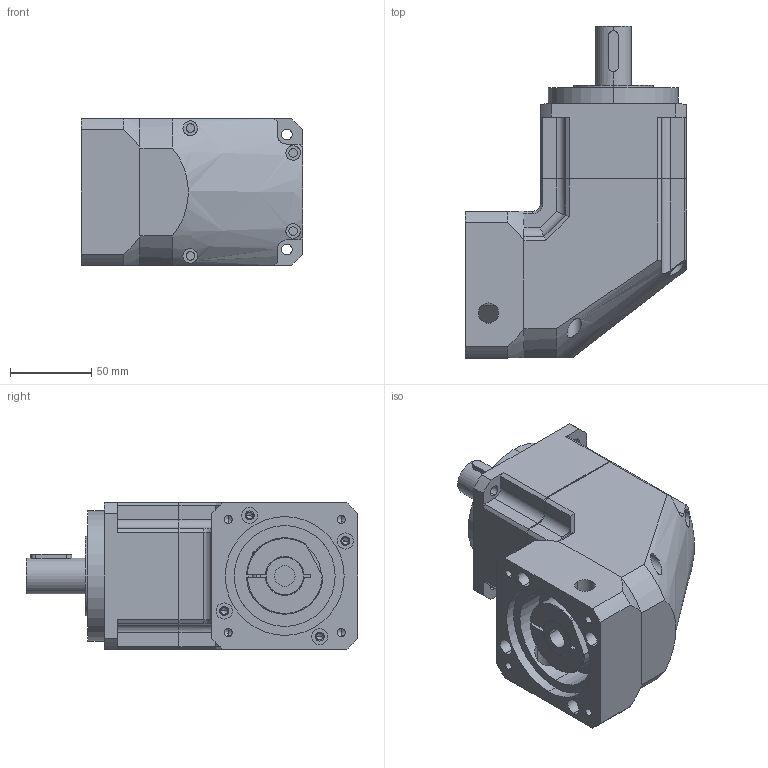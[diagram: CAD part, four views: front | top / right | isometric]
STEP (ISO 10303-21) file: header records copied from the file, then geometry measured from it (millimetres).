
FILE_DESCRIPTION (( 'STEP AP203' ), '1' );
FILE_NAME ('PDZJ090-L1-5-86-12.7x38.STEP', '2020-12-03T06:20:33', ( 'USER-' ), ( 'MS' ), 'SwSTEP 2.0', 'SolidWorks 2018', '' );
FILE_SCHEMA (( 'CONFIG_CONTROL_DESIGN' ));
Length unit declared in the file: millimetre
Products named in the file (7): PD90-SJH01_3.____^PDZJ090-L1(2)_PDZJ090-L1; ______ 6x6x25^PDZJ090-L1(2)_PDZJ090-L1; PD90-_________2^PDZJ090-L1(2)_PDZJ090-L1; PDR90-LJ_______ ____^PDZJ090-L1(2)_PDZJ090-L1; ________________M5__20^PDZJ090-L1(2)_PDZJ090-L1; PDZJ090-L1-5-86-12.7x38; PD90-_______108T^PDZJ090-L1(2)_PDZJ090-L1
Assembly tree (6 placements, depth 2):
  PDZJ090-L1-5-86-12.7x38
    PD90-_______108T^PDZJ090-L1(2)_PDZJ090-L1
    PD90-SJH01_3.____^PDZJ090-L1(2)_PDZJ090-L1
    ______ 6x6x25^PDZJ090-L1(2)_PDZJ090-L1
    PD90-_________2^PDZJ090-L1(2)_PDZJ090-L1
    PDR90-LJ_______ ____^PDZJ090-L1(2)_PDZJ090-L1
    ________________M5__20^PDZJ090-L1(2)_PDZJ090-L1
Bounding box: 136 x 204 x 90 mm (x, y, z)
Volume: 1306414 mm3; surface area: 146088.6 mm2
Topology: 6 solids, 6 shells, 338 faces, 826 edges, 513 vertices
Faces by surface type: cylinder 168, plane 105, cone 42, torus 22, bspline 1
Entity records: 12727 total; most frequent: CARTESIAN_POINT 3984, DIRECTION 1746, ORIENTED_EDGE 1600, EDGE_CURVE 800, AXIS2_PLACEMENT_3D 685, VERTEX_POINT 513, EDGE_LOOP 411, LINE 376
